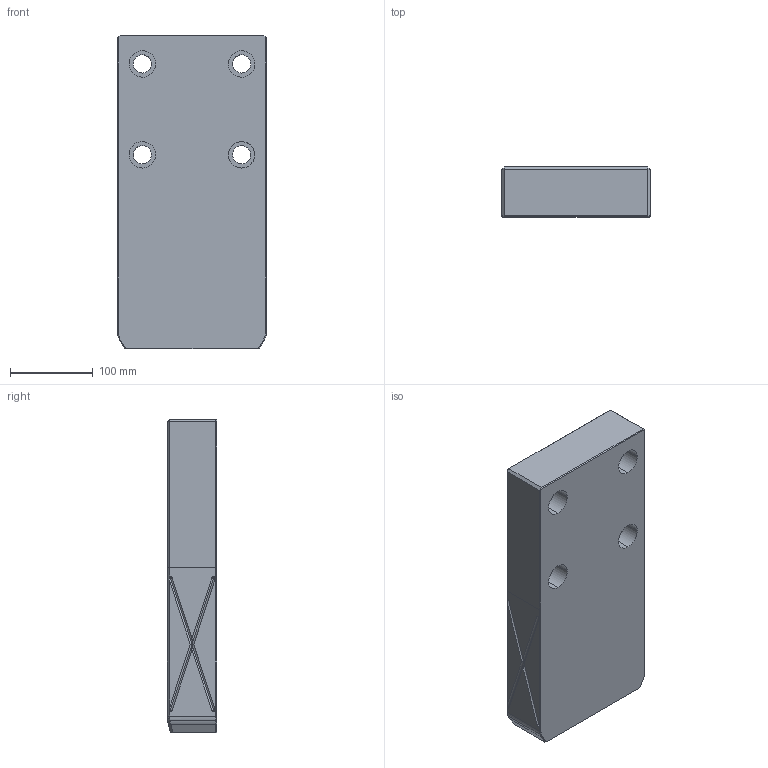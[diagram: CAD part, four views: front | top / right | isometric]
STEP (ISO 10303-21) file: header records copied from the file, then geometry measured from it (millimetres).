
FILE_DESCRIPTION(('CATIA V5 STEP Exchange'),'2;1');
FILE_NAME('D:\temp\color-modify-100929\GWB_6644-6654_R00\3d_gwb180-200-380_6654_r00.stp','2010-09-29T05:18:29+00:00',('none'),('none'),'CATIA Version 5 Release 18 SP 5 (IN-10)','CATIA V5 STEP AP214','none');
FILE_SCHEMA(('AUTOMOTIVE_DESIGN { 1 0 10303 214 1 1 1 1 }'));
Length unit declared in the file: millimetre
Products named in the file (1): GWB180-200-380
Bounding box: 180 x 60 x 380 mm (x, y, z)
Volume: 3946563.8 mm3; surface area: 219850.9 mm2
Topology: 1 solids, 1 shells, 139 faces, 362 edges, 207 vertices
Faces by surface type: cylinder 66, plane 39, revolution 24, bspline 6, cone 4
Entity records: 5218 total; most frequent: CARTESIAN_POINT 2255, ORIENTED_EDGE 676, DIRECTION 438, EDGE_CURVE 338, VERTEX_POINT 207, B_SPLINE_CURVE_WITH_KNOTS 166, AXIS2_PLACEMENT_3D 154, EDGE_LOOP 153
